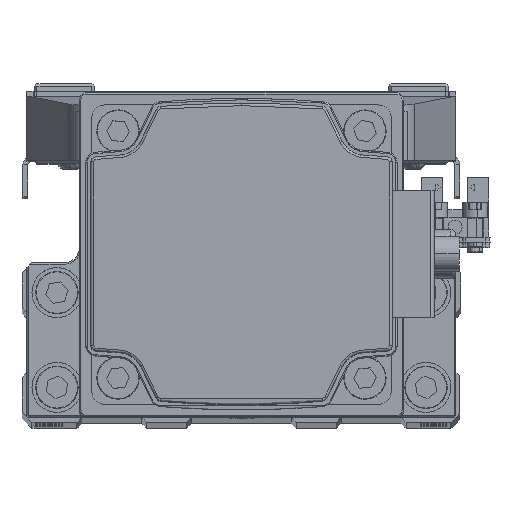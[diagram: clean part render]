
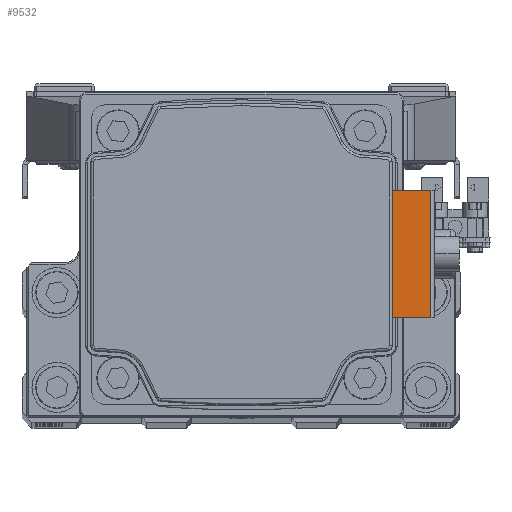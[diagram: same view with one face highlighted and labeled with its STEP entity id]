
A CAD part, top view. The second image highlights one B-rep face of the part: STEP entity #9532.
In plain terms, the highlighted planar face has unit normal (0, 0, 1) as drawn and (0, 0, -1) by its records, which use the part's own axes.
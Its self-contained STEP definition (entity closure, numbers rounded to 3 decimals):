
#2301 = VERTEX_POINT ( 'NONE', #18076 ) ;
#3741 = CARTESIAN_POINT ( 'NONE',  ( 0., 37.9, -88.696 ) ) ;
#4889 = VERTEX_POINT ( 'NONE', #19294 ) ;
#6888 = CARTESIAN_POINT ( 'NONE',  ( -12.75, 37.9, -88.696 ) ) ;
#8727 = LINE ( 'NONE', #23495, #42104 ) ;
#8853 = LINE ( 'NONE', #23609, #30394 ) ;
#9532 = ADVANCED_FACE ( 'NONE', ( #22150 ), #36903, .T. ) ;
#10212 = VERTEX_POINT ( 'NONE', #28268 ) ;
#10768 = ORIENTED_EDGE ( 'NONE', *, *, #37270, .T. ) ;
#11917 = ORIENTED_EDGE ( 'NONE', *, *, #17017, .T. ) ;
#12085 = VERTEX_POINT ( 'NONE', #13752 ) ;
#12690 = EDGE_CURVE ( 'NONE', #10212, #4889, #8727, .T. ) ;
#13075 = EDGE_CURVE ( 'NONE', #4889, #12085, #8853, .T. ) ;
#13752 = CARTESIAN_POINT ( 'NONE',  ( 12.75, 37.9, -88.696 ) ) ;
#15094 = EDGE_LOOP ( 'NONE', ( #11917, #10768, #28447, #45405 ) ) ;
#16489 = LINE ( 'NONE', #31247, #25750 ) ;
#17017 = EDGE_CURVE ( 'NONE', #10212, #2301, #40054, .T. ) ;
#18076 = CARTESIAN_POINT ( 'NONE',  ( -12.75, 37.9, -88.696 ) ) ;
#18408 = VECTOR ( 'NONE', #21654, 1000. ) ;
#18512 = DIRECTION ( 'NONE',  ( 0., 0., -1. ) ) ;
#19294 = CARTESIAN_POINT ( 'NONE',  ( 12.75, 30.2, -88.696 ) ) ;
#21654 = DIRECTION ( 'NONE',  ( 0., 1., 0. ) ) ;
#22150 = FACE_OUTER_BOUND ( 'NONE', #15094, .T. ) ;
#23495 = CARTESIAN_POINT ( 'NONE',  ( 18.438, 30.2, -88.696 ) ) ;
#23609 = CARTESIAN_POINT ( 'NONE',  ( 12.75, 33.991, -88.696 ) ) ;
#25750 = VECTOR ( 'NONE', #46015, 1000. ) ;
#28268 = CARTESIAN_POINT ( 'NONE',  ( -12.75, 30.2, -88.696 ) ) ;
#28447 = ORIENTED_EDGE ( 'NONE', *, *, #13075, .F. ) ;
#29497 = AXIS2_PLACEMENT_3D ( 'NONE', #3741, #18512, #33261 ) ;
#30394 = VECTOR ( 'NONE', #38363, 1000. ) ;
#31247 = CARTESIAN_POINT ( 'NONE',  ( 0., 37.9, -88.696 ) ) ;
#33261 = DIRECTION ( 'NONE',  ( -1., 0., 0. ) ) ;
#36903 = PLANE ( 'NONE',  #29497 ) ;
#37270 = EDGE_CURVE ( 'NONE', #2301, #12085, #16489, .T. ) ;
#38254 = DIRECTION ( 'NONE',  ( 1., 0., 0. ) ) ;
#38363 = DIRECTION ( 'NONE',  ( 0., 1., 0. ) ) ;
#40054 = LINE ( 'NONE', #6888, #18408 ) ;
#42104 = VECTOR ( 'NONE', #38254, 1000. ) ;
#45405 = ORIENTED_EDGE ( 'NONE', *, *, #12690, .F. ) ;
#46015 = DIRECTION ( 'NONE',  ( 1., 0., 0. ) ) ;
